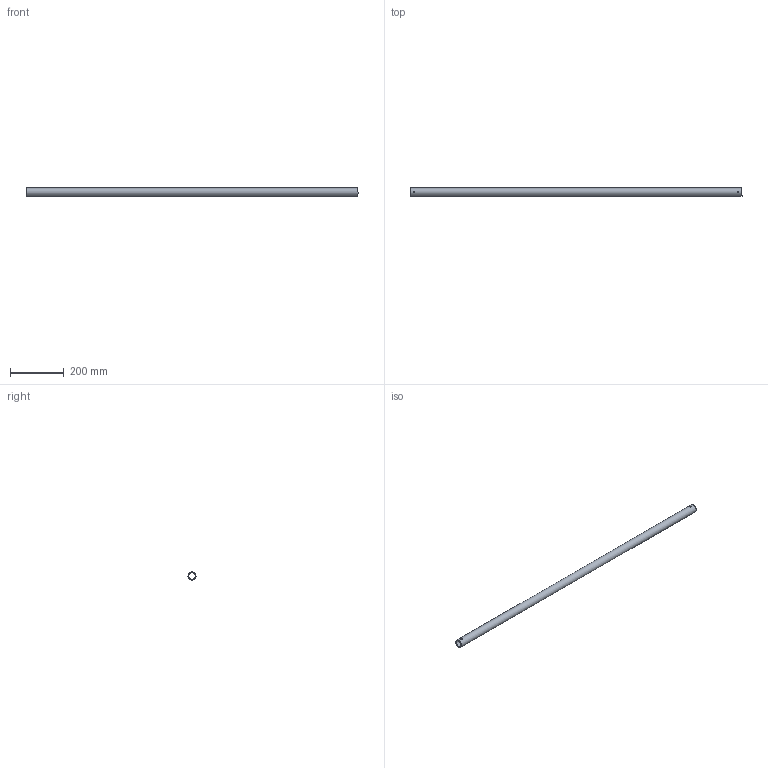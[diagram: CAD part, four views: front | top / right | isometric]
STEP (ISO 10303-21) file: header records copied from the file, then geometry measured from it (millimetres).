
FILE_DESCRIPTION(/* description */ (''),/* implementation_level */ '2;1');
FILE_NAME(/* name */ 'Pos112-Precisie buis 30x3-Aluminium-1st',/* time_stamp */ '2024-08-06T11:49:45+02:00',/* author */ (''),/* organization */ (''),/* preprocessor_version */ 'ST-DEVELOPER v16.5',/* originating_system */ 'HiCAD 2024 2901.2 Build 361',/* authorisation */ '');
FILE_SCHEMA (('AUTOMOTIVE_DESIGN { 1 0 10303 214 1 1 1 1 }'));
Length unit declared in the file: millimetre
Products named in the file (1): Pos112-Precisie buis 30x3-Aluminium-1st
Bounding box: 1239 x 30 x 30 mm (x, y, z)
Volume: 315167.9 mm3; surface area: 210716.5 mm2
Topology: 1 solids, 1 shells, 6 faces, 28 edges, 20 vertices
Faces by surface type: cylinder 4, plane 2
Full cylindrical faces by diameter (mm): 5 x2, 24 x1, 30 x1
Entity records: 436 total; most frequent: CARTESIAN_POINT 156, PRESENTATION_STYLE_ASSIGNMENT 25, COLOUR_RGB 25, DRAUGHTING_PRE_DEFINED_CURVE_FONT 24, CURVE_STYLE 24, OVER_RIDING_STYLED_ITEM 24, ORIENTED_EDGE 24, DIRECTION 24
